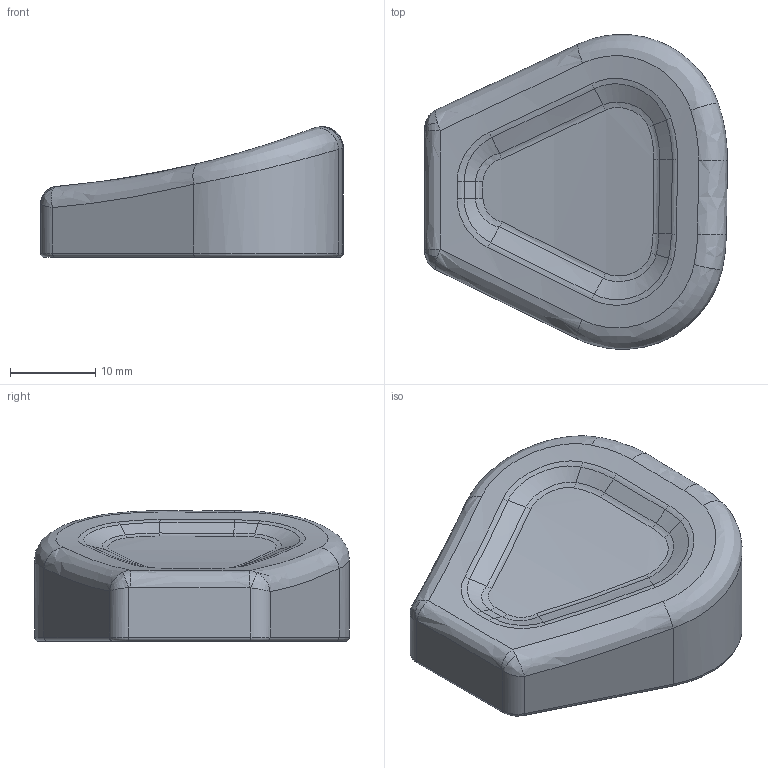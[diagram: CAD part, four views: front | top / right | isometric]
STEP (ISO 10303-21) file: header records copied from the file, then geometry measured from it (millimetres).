
FILE_DESCRIPTION(/* description */ (''),/* implementation_level */ '2;1');
FILE_NAME(/* name */ 'LAST_Grip 05.stp',/* time_stamp */ '2025-11-19T21:10:23+09:00',/* author */ (''),/* organization */ (''),/* preprocessor_version */ 'ST-DEVELOPER v11',/* originating_system */ 'SIEMENS PLM Software NX 7.5',/* authorisation */ '');
FILE_SCHEMA (('CONFIG_CONTROL_DESIGN'));
Length unit declared in the file: millimetre
Products named in the file (1): gyun8741ynvj
Bounding box: 35.55 x 36.96 x 15.34 mm (x, y, z)
Volume: 11418.6 mm3; surface area: 3346.2 mm2
Topology: 1 solids, 1 shells, 65 faces, 146 edges, 82 vertices
Faces by surface type: bspline 46, cylinder 10, plane 5, torus 4
Entity records: 2854 total; most frequent: CARTESIAN_POINT 1671, ORIENTED_EDGE 288, EDGE_CURVE 144, DIRECTION 132, B_SPLINE_CURVE_WITH_KNOTS 90, VERTEX_POINT 82, EDGE_LOOP 66, ADVANCED_FACE 65
